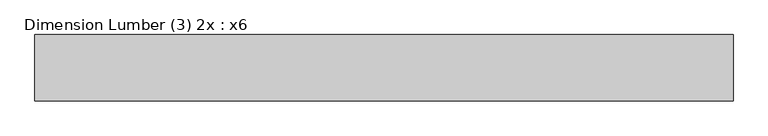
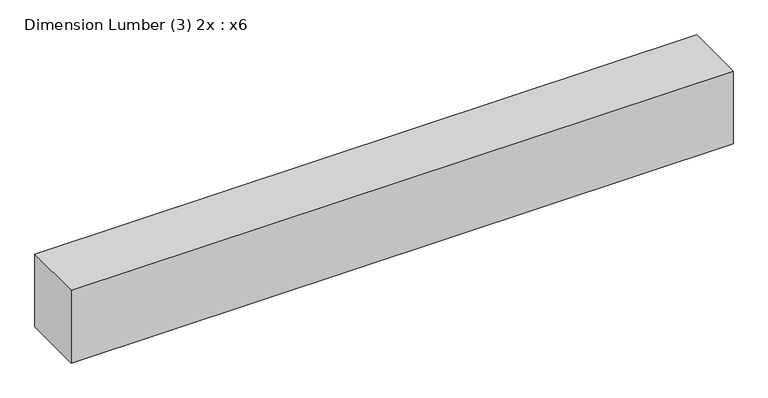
"""IFC4 building model written with IfcOpenShell, lengths in millimetres: beam geometry, Dimension Lumber (3) 2x : x6."""

import ifcopenshell
import ifcopenshell.guid

model = None  # the IFC model being written
_history = None  # IfcOwnerHistory: only IFC2X3 demands one
_inside = {}  # id of a spatial element -> (the spatial element, [elements in it])
_under = {}  # id of a project, library or spatial element -> (it, [spatial elements below it])
_declared = {}  # id of a project -> (the project, [libraries it declares])
_typed = {}  # id of a type object -> (the type object, [elements of that type])
_made_of = {}  # id of a material, layer set ... -> (it, [elements and type objects made of it])


def new_model(schema):
    """Start an empty IFC model of exactly this schema.

    Asked for "IFC4X3", IfcOpenShell would pick the latest addendum, in which some entities
    have other attributes; the version numbers below select the first issue.
    IFC2X3 requires an IfcOwnerHistory on every rooted entity: one is made here for all.
    """
    global model, _history
    if schema == "IFC4X3":
        model = ifcopenshell.file(schema_version=(4, 3, 0, 0))
    else:
        model = ifcopenshell.file(schema=schema)
    _inside.clear()
    _under.clear()
    _declared.clear()
    _typed.clear()
    _made_of.clear()
    _history = None
    if model.schema == "IFC2X3":
        org = make("IfcOrganization", Name="unknown")
        user = make(
            "IfcPersonAndOrganization",
            ThePerson=make("IfcPerson", FamilyName="unknown"),
            TheOrganization=org,
        )
        app = make(
            "IfcApplication",
            ApplicationDeveloper=org,
            Version="unknown",
            ApplicationFullName="unknown",
            ApplicationIdentifier="unknown",
        )
        _history = make(
            "IfcOwnerHistory",
            OwningUser=user,
            OwningApplication=app,
            ChangeAction="ADDED",
            CreationDate=0,
        )
    return model


def make(cls, **values):
    """One entity of the class cls with the attributes given. An attribute that is None is left unset."""
    return model.create_entity(
        cls, **{name: value for name, value in values.items() if value is not None}
    )


def rooted(cls, **values):
    """An entity with a GlobalId (a new one), such as an element, a storey or a relation."""
    return make(cls, GlobalId=ifcopenshell.guid.new(), OwnerHistory=_history, **values)


def si_unit(unit_type, name, prefix=None):
    """IfcSIUnit, for example si_unit("LENGTHUNIT", "METRE", prefix="MILLI")."""
    return make("IfcSIUnit", UnitType=unit_type, Prefix=prefix, Name=name)


def assignment(units):
    """IfcUnitAssignment: the units of a project."""
    return None if units is None else make("IfcUnitAssignment", Units=units)


def point(xyz):
    """IfcCartesianPoint."""
    return None if xyz is None else make("IfcCartesianPoint", Coordinates=xyz)


def direction(xyz):
    """IfcDirection."""
    return None if xyz is None else make("IfcDirection", DirectionRatios=xyz)


def frame(location, z_axis=None, x_axis=None):
    """IfcAxis2Placement3D, a coordinate frame: its origin and axes. An axis left out is left unset."""
    return make(
        "IfcAxis2Placement3D",
        Location=point(location),
        Axis=direction(z_axis),
        RefDirection=direction(x_axis),
    )


def origin():
    """The frame at (0, 0, 0) with its axes left unset."""
    return frame((0.0, 0.0, 0.0))


def place(relative_to, where):
    """IfcLocalPlacement: puts the frame where relative to a parent placement (None: the world)."""
    return make(
        "IfcLocalPlacement", PlacementRelTo=relative_to, RelativePlacement=where
    )


def context(
    kind, dimensions, precision=None, world=None, true_north=None, identifier=None
):
    """IfcGeometricRepresentationContext, for example the 3D "Model" context."""
    return make(
        "IfcGeometricRepresentationContext",
        ContextIdentifier=identifier,
        ContextType=kind,
        CoordinateSpaceDimension=dimensions,
        Precision=precision,
        WorldCoordinateSystem=world,
        TrueNorth=true_north,
    )


def project(units=None, contexts=None):
    """IfcProject with its units and contexts."""
    return rooted(
        "IfcProject",
        Name="project",
        RepresentationContexts=contexts,
        UnitsInContext=assignment(units),
    )


def spatial(cls, under=None, at=None, **own):
    """A site, building, storey or space (cls), placed at a placement, below another one or the project."""
    s = rooted(cls, ObjectPlacement=at, **own)
    if under is not None:
        _under.setdefault(under.id(), (under, []))[1].append(s)
    return s


def polyline(points):
    """IfcPolyline through the points."""
    return make("IfcPolyline", Points=[point(p) for p in points])


def outline(outer, holes=None, kind="AREA"):
    """IfcArbitraryClosedProfileDef: a profile drawn as a closed curve; with holes, ...WithVoids."""
    if holes is None:
        return make("IfcArbitraryClosedProfileDef", ProfileType=kind, OuterCurve=outer)
    return make(
        "IfcArbitraryProfileDefWithVoids",
        ProfileType=kind,
        OuterCurve=outer,
        InnerCurves=holes,
    )


def extrude(swept, where, along, depth):
    """IfcExtrudedAreaSolid: the profile swept, set in the frame where, extruded along a direction by depth."""
    return make(
        "IfcExtrudedAreaSolid",
        SweptArea=swept,
        Position=where,
        ExtrudedDirection=direction(along),
        Depth=depth,
    )


def shape(context_of_items, identifier, shape_type, items):
    """IfcShapeRepresentation: the items that make up one representation, for example the "Body"."""
    return make(
        "IfcShapeRepresentation",
        ContextOfItems=context_of_items,
        RepresentationIdentifier=identifier,
        RepresentationType=shape_type,
        Items=items,
    )


def source(mapping_origin, context_of_items, identifier, shape_type, items):
    """IfcRepresentationMap: a shape defined once, which mapped items show again and again."""
    return make(
        "IfcRepresentationMap",
        MappingOrigin=mapping_origin,
        MappedRepresentation=shape(context_of_items, identifier, shape_type, items),
    )


def transform(
    local_origin,
    x_axis=None,
    y_axis=None,
    z_axis=None,
    scale=None,
    scale2=None,
    scale3=None,
    uniform=True,
):
    """IfcCartesianTransformationOperator3D, or its non-uniform kind. x_axis, y_axis, z_axis: its Axis1, 2, 3."""
    if uniform:
        return make(
            "IfcCartesianTransformationOperator3D",
            Axis1=direction(x_axis),
            Axis2=direction(y_axis),
            LocalOrigin=point(local_origin),
            Scale=scale,
            Axis3=direction(z_axis),
        )
    return make(
        "IfcCartesianTransformationOperator3DnonUniform",
        Axis1=direction(x_axis),
        Axis2=direction(y_axis),
        LocalOrigin=point(local_origin),
        Scale=scale,
        Axis3=direction(z_axis),
        Scale2=scale2,
        Scale3=scale3,
    )


def mapped(mapping_source, mapping_target):
    """IfcMappedItem: shows the shape of a source again, moved by a transform."""
    return make(
        "IfcMappedItem", MappingSource=mapping_source, MappingTarget=mapping_target
    )


def made_of(thing, what):
    """Note that an element or type object is made of a material, layer set ...; save() writes the relation."""
    if what is not None:
        _made_of.setdefault(what.id(), (what, []))[1].append(thing)
    return thing


def element(
    cls,
    number,
    at=None,
    inside=None,
    cuts=None,
    type_object=None,
    material=None,
    context=None,
    identifier="Body",
    shape_type=None,
    held_by="IfcProductDefinitionShape",
    body=None,
    shapes=None,
    **own,
):
    """One element of the class cls, such as IfcWall. Its Tag is "e" and its number.

    at: its placement. inside: the storey or other place that contains it. cuts: it is an
    opening in that element (IfcRelVoidsElement). A single representation is given by context,
    identifier, shape_type and body (its items); several are given by shapes. held_by: the class
    of the entity that holds the representations. save() writes the other relations.
    """
    e = rooted(cls, Tag="e%d" % number, ObjectPlacement=at, **own)
    if body is not None:
        shapes = [shape(context, identifier, shape_type, body)]
    if shapes is not None:
        e.Representation = make(held_by, Representations=shapes)
    if inside is not None:
        _inside.setdefault(inside.id(), (inside, []))[1].append(e)
    if cuts is not None:
        rooted(
            "IfcRelVoidsElement", RelatingBuildingElement=cuts, RelatedOpeningElement=e
        )
    if type_object is not None:
        _typed.setdefault(type_object.id(), (type_object, []))[1].append(e)
    return made_of(e, material)


def aggregate(whole, parts):
    """IfcRelAggregates: a whole, such as a stair, and the parts it consists of."""
    return rooted("IfcRelAggregates", RelatingObject=whole, RelatedObjects=parts)


def save(model, path):
    """Write the relations noted so far, then the file.

    IfcRelAggregates (storeys below a building ...), IfcRelContainedInSpatialStructure (elements
    in a storey), IfcRelDefinesByType, IfcRelAssociatesMaterial and IfcRelDeclares: one each for
    every whole, place, type object, material and project.
    """
    for whole, parts in _under.values():
        aggregate(whole, parts)
    for where, things in _inside.values():
        rooted(
            "IfcRelContainedInSpatialStructure",
            RelatedElements=things,
            RelatingStructure=where,
        )
    for kind, things in _typed.values():
        rooted("IfcRelDefinesByType", RelatedObjects=things, RelatingType=kind)
    for what, things in _made_of.values():
        rooted("IfcRelAssociatesMaterial", RelatedObjects=things, RelatingMaterial=what)
    for by, libraries in _declared.values():
        rooted("IfcRelDeclares", RelatingContext=by, RelatedDefinitions=libraries)
    model.write(path)


def dimension_lumber_3_2x_x6_e2801ec1(model_context):
    return source(origin(), model_context, "Body", "SweptSolid", [
        extrude(outline(polyline([(590.55, 57.15), (590.55, -57.15), (-609.6, -57.15), (-609.6, 57.15), (590.55, 57.15)])), frame((0.0, 0.0, -69.85), z_axis=(0.0, 0.0, 1.0), x_axis=(1.0, 0.0, 0.0)), (0.0, 0.0, 1.0), 139.7),
    ])


if __name__ == "__main__":
    model = new_model("IFC4")
    model_context = context("Model", 3, world=origin())
    ifc_project = project(units=[si_unit("LENGTHUNIT", "METRE", prefix="MILLI")], contexts=[model_context])
    site = spatial("IfcSite", under=ifc_project)
    building = spatial("IfcBuilding", under=site)
    placement = place(None, origin())
    dimension_lumber_3_2x_x6_shape = dimension_lumber_3_2x_x6_e2801ec1(model_context)
    element("IfcBeam", 1, ObjectType="Dimension Lumber (3) 2x : x6", at=placement, inside=building, context=model_context, shape_type="MappedRepresentation", body=[
        mapped(dimension_lumber_3_2x_x6_shape, transform((0.0, 0.0, 0.0), x_axis=(1.0, 0.0, 0.0), y_axis=(0.0, 1.0, 0.0), z_axis=(0.0, 0.0, 1.0))),
    ])
    save(model, "model.ifc")
